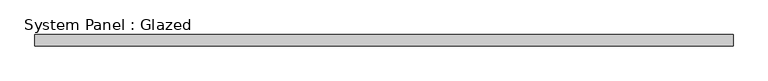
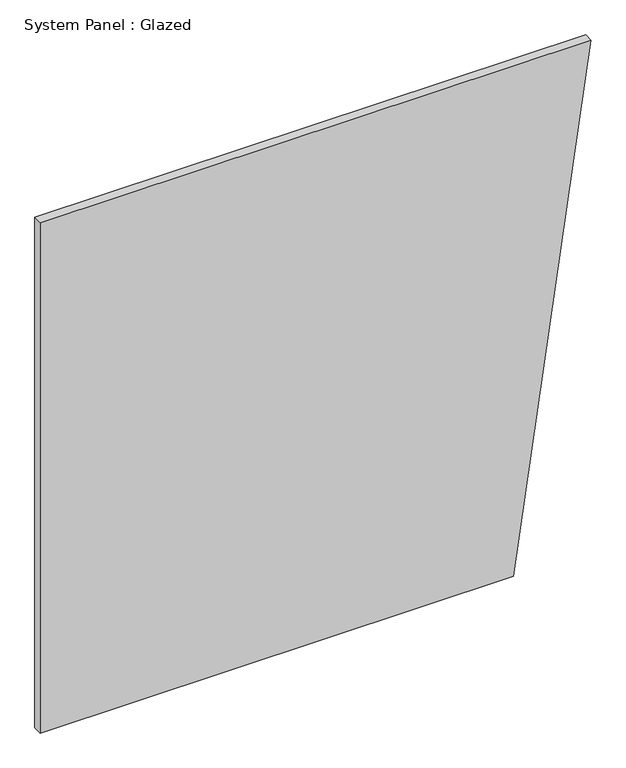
"""IFC4 building model written with IfcOpenShell, lengths in millimetres: plate geometry, System Panel : Glazed."""

from ifc_helpers import new_model, si_unit, frame, origin, place, context, project, spatial, polyline, outline, extrude, source, transform, mapped, element, save


def system_panel_glazed_8a25e9b3(model_context):
    return source(origin(), model_context, "Body", "SweptSolid", [
        extrude(outline(polyline([(0.0, -778.446043), (0.0, 559.1654675), (1524.0, 778.446043), (1524.0, -778.446043), (0.0, -778.446043)])), frame((0.0, 19.05, 0.0), z_axis=(0.0, 1.0, 0.0), x_axis=(0.0, 0.0, 1.0)), (0.0, 0.0, 1.0), 25.4),
    ])


if __name__ == "__main__":
    model = new_model("IFC4")
    model_context = context("Model", 3, world=origin())
    ifc_project = project(units=[si_unit("LENGTHUNIT", "METRE", prefix="MILLI")], contexts=[model_context])
    site = spatial("IfcSite", under=ifc_project)
    building = spatial("IfcBuilding", under=site)
    placement = place(None, origin())
    system_panel_glazed_shape = system_panel_glazed_8a25e9b3(model_context)
    element("IfcPlate", 1, ObjectType="System Panel : Glazed", at=placement, inside=building, context=model_context, shape_type="MappedRepresentation", body=[
        mapped(system_panel_glazed_shape, transform((0.0, 0.0, 0.0), x_axis=(1.0, 0.0, 0.0), y_axis=(0.0, 1.0, 0.0), z_axis=(0.0, 0.0, 1.0))),
    ])
    save(model, "model.ifc")
